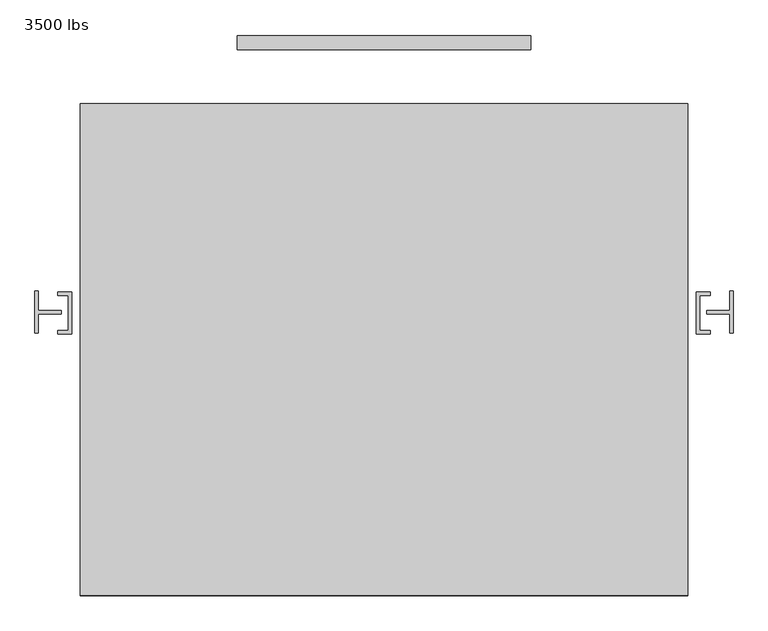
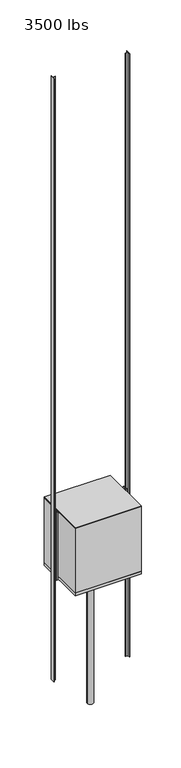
"""IFC4 building model written with IfcOpenShell, lengths in millimetres: proxy geometry, Elevator-Hydraulic[1] : 3500 lbs."""

from ifc_helpers import new_model, si_unit, point, frame, frame_2d, origin, origin_with_axes, place, context, project, spatial, polyline, circle_curve, trimmed, segment, composite_curve, outline, extrude, faceted_brep, source, transform, mapped, element, save


def proxy_3500_lbs_85ff0118(model_context):
    return source(origin(), model_context, "Body", "SolidModel", [
        extrude(outline(polyline([(540.8469965, 956.0281737), (-525.9530035, 956.0281737), (-525.9530035, 1006.8281737), (540.8469965, 1006.8281737), (540.8469965, 956.0281737)])), frame((0.0, 0.0, 3657.6), z_axis=(0.0, 0.0, 1.0), x_axis=(1.0, 0.0, 0.0)), (0.0, 0.0, 1.0), 2032.0),
        extrude(outline(polyline([(1112.3469965, -1031.5218263), (-1097.4530035, -1031.5218263), (-1097.4530035, 759.1781737), (1112.3469965, 759.1781737), (1112.3469965, -1031.5218263)])), frame((0.0, 0.0, 5943.6), z_axis=(0.0, 0.0, 1.0), x_axis=(1.0, 0.0, 0.0)), (0.0, 0.0, 1.0), 25.4),
        extrude(outline(composite_curve([segment(trimmed(circle_curve(frame_2d((7.4469965, -2.8218263)), 101.6), [point((-94.1530035, -2.8218263))], [point((109.0469965, -2.8218263))], False, "CARTESIAN"), True, "CONTINUOUS"), segment(trimmed(circle_curve(frame_2d((7.4469965, -2.8218263)), 101.6), [point((109.0469965, -2.8218263))], [point((-94.1530035, -2.8218263))], False, "CARTESIAN"), True, "CONTINUOUS")], self_intersect=False)), frame((0.0, 0.0, -1219.2), z_axis=(0.0, 0.0, 1.0), x_axis=(1.0, 0.0, 0.0)), (0.0, 0.0, 1.0), 4775.2),
        faceted_brep([(1112.3469965, -1031.5218263, 5943.6), (1112.3469965, 759.1781737, 5943.6), (-1097.4530035, 759.1781737, 5943.6), (-1097.4530035, -1031.5218263, 5943.6), (1074.2469965, -993.4218263, 5943.6), (-1059.3530035, -993.4218263, 5943.6), (-1059.3530035, 530.5781737, 5943.6), (1074.2469965, 530.5781737, 5943.6), (1074.2469965, -993.4218263, 3657.6), (1074.2469965, 530.5781737, 3657.6), (540.8469965, 530.5781737, 3657.6), (540.8469965, 759.1781737, 3657.6), (1112.3469965, 759.1781737, 3657.6), (1112.3469965, -1031.5218263, 3657.6), (-1097.4530035, -1031.5218263, 3657.6), (-1097.4530035, 759.1781737, 3657.6), (-525.9530035, 759.1781737, 3657.6), (-525.9530035, 530.5781737, 3657.6), (-1059.3530035, 530.5781737, 3657.6), (-1059.3530035, -993.4218263, 3657.6), (-525.9530035, 530.5781737, 5689.6), (540.8469965, 530.5781737, 5689.6), (540.8469965, 759.1781737, 5689.6), (-525.9530035, 759.1781737, 5689.6)], [[[0, 1, 2, 3], [4, 5, 6, 7]], [[8, 9, 10, 11, 12, 13, 14, 15, 16, 17, 18, 19]], [[7, 9, 8, 4]], [[6, 18, 17, 20, 21, 10, 9, 7]], [[5, 19, 18, 6]], [[4, 8, 19, 5]], [[3, 14, 13, 0]], [[2, 15, 14, 3]], [[1, 12, 11, 22, 23, 16, 15, 2]], [[0, 13, 12, 1]], [[23, 22, 21, 20]], [[20, 17, 16, 23]], [[22, 11, 10, 21]]]),
        extrude(outline(polyline([(1112.3469965, -1031.5218263), (-1097.4530035, -1031.5218263), (-1097.4530035, 759.1781737), (1112.3469965, 759.1781737), (1112.3469965, -1031.5218263)])), frame((0.0, 0.0, 3556.0), z_axis=(0.0, 0.0, 1.0), x_axis=(1.0, 0.0, 0.0)), (0.0, 0.0, 1.0), 101.6),
        extrude(outline(polyline([(-1129.2030035, -79.0218263), (-1180.0030035, -79.0218263), (-1180.0030035, -66.3218263), (-1141.9030035, -66.3218263), (-1141.9030035, 60.6781737), (-1180.0030035, 60.6781737), (-1180.0030035, 73.3781737), (-1129.2030035, 73.3781737), (-1129.2030035, -79.0218263)])), frame((0.0, 0.0, 3556.0), z_axis=(0.0, 0.0, 1.0), x_axis=(1.0, 0.0, 0.0)), (0.0, 0.0, 1.0), 2413.0),
        extrude(outline(polyline([(1144.0969965, -79.0218263), (1144.0969965, 73.3781737), (1194.8969965, 73.3781737), (1194.8969965, 60.6781737), (1156.7969965, 60.6781737), (1156.7969965, -66.3218263), (1194.8969965, -66.3218263), (1194.8969965, -79.0218263), (1144.0969965, -79.0218263)])), frame((0.0, 0.0, 3556.0), z_axis=(0.0, 0.0, 1.0), x_axis=(1.0, 0.0, 0.0)), (0.0, 0.0, 1.0), 2413.0),
        extrude(outline(polyline([(-1249.8530035, -79.0218263), (-1262.5530035, -79.0218263), (-1262.5530035, 73.3781737), (-1249.8530035, 73.3781737), (-1249.8530035, 3.5281737), (-1167.3030035, 3.5281737), (-1167.3030035, -9.1718263), (-1249.8530035, -9.1718263), (-1249.8530035, -79.0218263)])), origin_with_axes(), (0.0, 0.0, 1.0), 21336.0),
        extrude(outline(polyline([(1264.7469965, -79.0218263), (1264.7469965, -9.1718263), (1182.1969965, -9.1718263), (1182.1969965, 3.5281737), (1264.7469965, 3.5281737), (1264.7469965, 73.3781737), (1277.4469965, 73.3781737), (1277.4469965, -79.0218263), (1264.7469965, -79.0218263)])), origin_with_axes(), (0.0, 0.0, 1.0), 21336.0),
    ])


if __name__ == "__main__":
    model = new_model("IFC4")
    model_context = context("Model", 3, world=origin())
    ifc_project = project(units=[si_unit("LENGTHUNIT", "METRE", prefix="MILLI")], contexts=[model_context])
    site = spatial("IfcSite", under=ifc_project)
    building = spatial("IfcBuilding", under=site)
    placement = place(None, origin())
    proxy_3500_lbs_shape = proxy_3500_lbs_85ff0118(model_context)
    element("IfcBuildingElementProxy", 1, Name="Elevator-Hydraulic[1] : 3500 lbs", ObjectType="Elevator-Hydraulic[1] : 3500 lbs", at=placement, inside=building, context=model_context, shape_type="MappedRepresentation", body=[
        mapped(proxy_3500_lbs_shape, transform((0.0, 0.0, 0.0), x_axis=(1.0, 0.0, 0.0), y_axis=(0.0, 1.0, 0.0), z_axis=(0.0, 0.0, 1.0))),
    ])
    save(model, "model.ifc")
